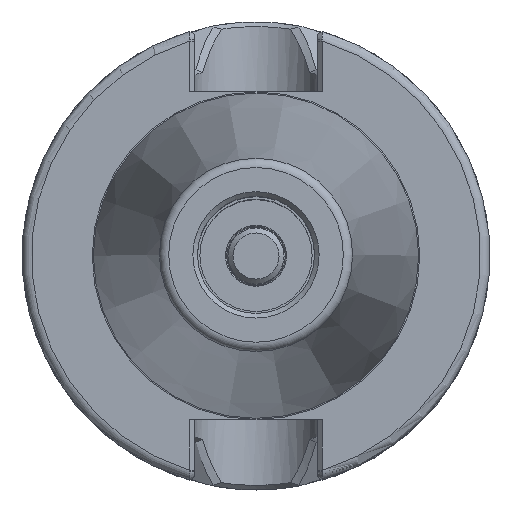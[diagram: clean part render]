
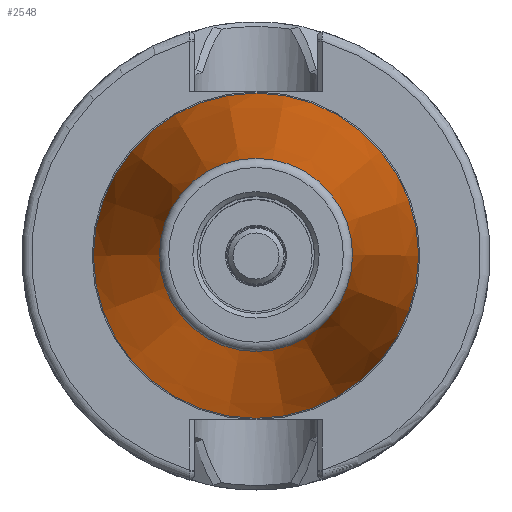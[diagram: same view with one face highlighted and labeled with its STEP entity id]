
A CAD part, top view. The second image highlights one B-rep face of the part: STEP entity #2548.
In plain terms, the highlighted conical face has half-angle 7.931 degrees and reference radius 27.575 mm.
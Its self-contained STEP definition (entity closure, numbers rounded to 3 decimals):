
#72=CONICAL_SURFACE('',#2801,27.575,0.138);
#438=LINE('',#5260,#605);
#605=VECTOR('',#3343,27.575);
#762=FACE_OUTER_BOUND('',#908,.T.);
#908=EDGE_LOOP('',(#2297,#2298,#2299,#2300,#2301,#2302));
#1013=CIRCLE('',#2799,20.64);
#1014=CIRCLE('',#2800,20.64);
#1015=CIRCLE('',#2802,34.75);
#1016=CIRCLE('',#2803,34.75);
#1255=VERTEX_POINT('',#5253);
#1256=VERTEX_POINT('',#5255);
#1257=VERTEX_POINT('',#5259);
#1258=VERTEX_POINT('',#5261);
#1613=EDGE_CURVE('',#1255,#1256,#1013,.T.);
#1614=EDGE_CURVE('',#1256,#1255,#1014,.T.);
#1615=EDGE_CURVE('',#1255,#1257,#438,.T.);
#1616=EDGE_CURVE('',#1257,#1258,#1015,.T.);
#1617=EDGE_CURVE('',#1258,#1257,#1016,.T.);
#2297=ORIENTED_EDGE('',*,*,#1614,.F.);
#2298=ORIENTED_EDGE('',*,*,#1613,.F.);
#2299=ORIENTED_EDGE('',*,*,#1615,.T.);
#2300=ORIENTED_EDGE('',*,*,#1616,.T.);
#2301=ORIENTED_EDGE('',*,*,#1617,.T.);
#2302=ORIENTED_EDGE('',*,*,#1615,.F.);
#2548=ADVANCED_FACE('',(#762),#72,.T.);
#2799=AXIS2_PLACEMENT_3D('',#5256,#3337,#3338);
#2800=AXIS2_PLACEMENT_3D('',#5257,#3339,#3340);
#2801=AXIS2_PLACEMENT_3D('',#5258,#3341,#3342);
#2802=AXIS2_PLACEMENT_3D('',#5262,#3344,#3345);
#2803=AXIS2_PLACEMENT_3D('',#5263,#3346,#3347);
#3337=DIRECTION('center_axis',(0.,0.,1.));
#3338=DIRECTION('ref_axis',(-1.,0.,0.));
#3339=DIRECTION('center_axis',(0.,0.,1.));
#3340=DIRECTION('ref_axis',(-1.,0.,0.));
#3341=DIRECTION('center_axis',(0.,0.,-1.));
#3342=DIRECTION('ref_axis',(1.,0.,0.));
#3343=DIRECTION('',(-0.138,0.,-0.99));
#3344=DIRECTION('center_axis',(0.,0.,1.));
#3345=DIRECTION('ref_axis',(1.,0.,0.));
#3346=DIRECTION('center_axis',(0.,0.,1.));
#3347=DIRECTION('ref_axis',(1.,0.,0.));
#5253=CARTESIAN_POINT('',(-20.64,0.,-1.724));
#5255=CARTESIAN_POINT('',(20.64,0.,-1.724));
#5256=CARTESIAN_POINT('Origin',(0.,0.,
-1.724));
#5257=CARTESIAN_POINT('Origin',(0.,0.,
-1.724));
#5258=CARTESIAN_POINT('Origin',(0.,0.,-51.5));
#5259=CARTESIAN_POINT('',(-34.75,0.,-103.));
#5260=CARTESIAN_POINT('',(-27.575,0.,-51.5));
#5261=CARTESIAN_POINT('',(34.75,0.,-103.));
#5262=CARTESIAN_POINT('Origin',(0.,0.,-103.));
#5263=CARTESIAN_POINT('Origin',(0.,0.,-103.));
